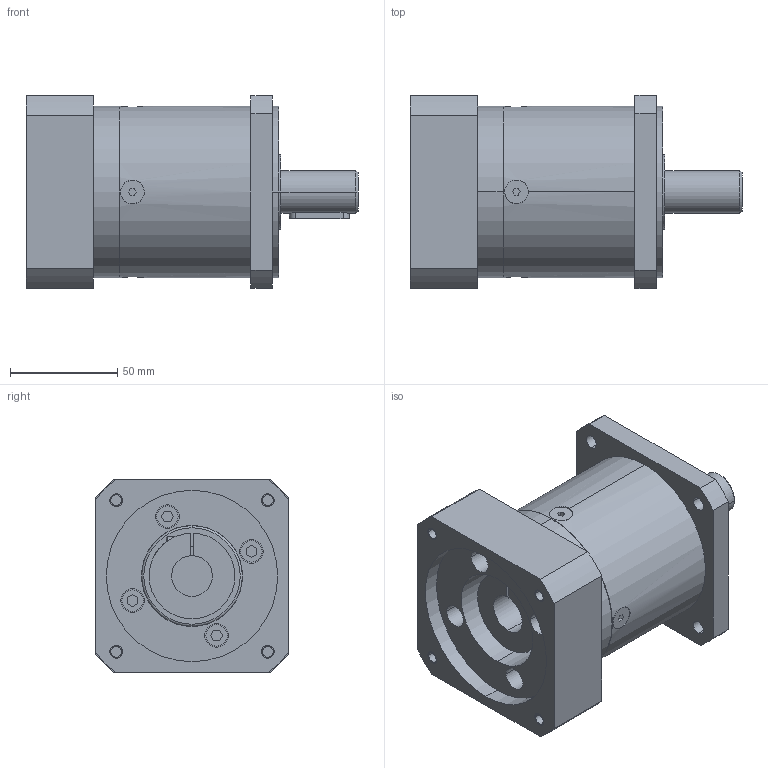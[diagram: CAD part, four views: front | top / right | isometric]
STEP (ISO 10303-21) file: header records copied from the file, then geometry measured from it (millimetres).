
FILE_DESCRIPTION((''),'2;1');
FILE_NAME('MB_PLE_MASTER','2019-08-12T',('agw'),(''),'CREO PARAMETRIC BY PTC INC, 2015290','CREO PARAMETRIC BY PTC INC, 2015290','');
FILE_SCHEMA(('AUTOMOTIVE_DESIGN { 1 0 10303 214 1 1 1 1 }'));
Length unit declared in the file: millimetre
Products named in the file (1): MB_PLE_MASTER
Bounding box: 155 x 90 x 90 mm (x, y, z)
Volume: 650174.4 mm3; surface area: 80071.9 mm2
Topology: 1 solids, 6 shells, 232 faces, 543 edges, 357 vertices
Faces by surface type: plane 124, cylinder 96, cone 6, torus 6
Entity records: 7735 total; most frequent: CARTESIAN_POINT 1323, DIRECTION 1203, ORIENTED_EDGE 1062, EDGE_CURVE 541, AXIS2_PLACEMENT_3D 440, VERTEX_POINT 357, VECTOR 323, LINE 323
